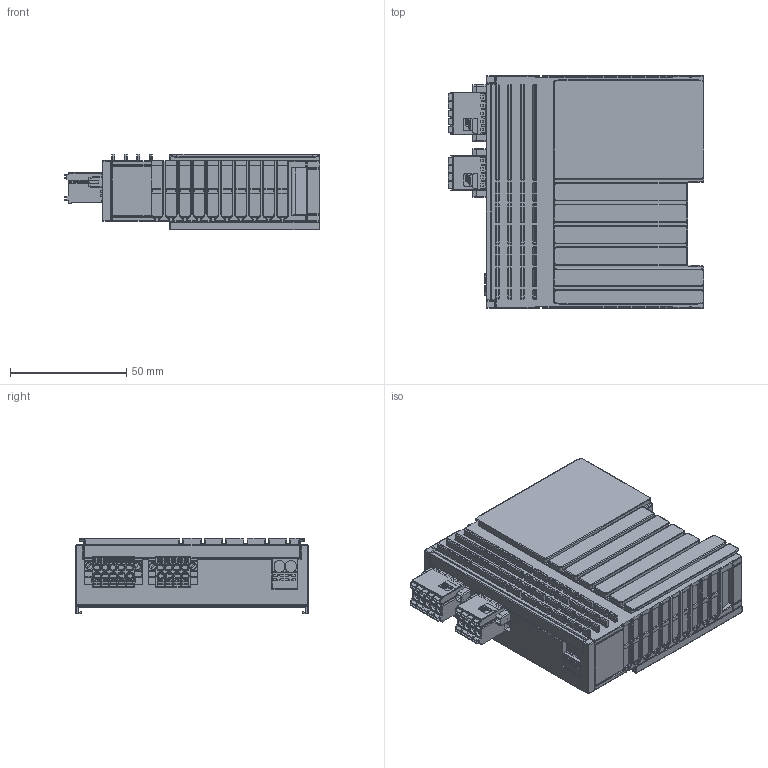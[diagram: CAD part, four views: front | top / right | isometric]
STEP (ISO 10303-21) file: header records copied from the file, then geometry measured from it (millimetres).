
FILE_DESCRIPTION(/* description */ ('EtherCAT-Klemme 30 mm 1 x 5pin 1 x 4 pin 1 x 2 pin'),/* implementation_level */ '2;1');
FILE_NAME(/* name */ 'E:\ethercat_terminal_30mm_1x5pin_1x4pin_1x2pin.stp',/* time_stamp */ '2021-05-19T11:24:11+02:00',/* author */ ('LarsSo'),/* organization */ (''),/* preprocessor_version */ 'ST-DEVELOPER v18',/* originating_system */ 'Autodesk Inventor 2020',/* authorisation */ '');
FILE_SCHEMA (('AUTOMOTIVE_DESIGN { 1 0 10303 214 3 1 1 }'));
Products named in the file (1): 0000003692_EtherCAT_terminal_30mm_1x5pin_1x4pin_1x2pin
Bounding box: 110 x 100 x 32.7 mm (x, y, z)
Volume: 263170.6 mm3; surface area: 43874.8 mm2
Topology: 1 solids, 27 shells, 6807 faces, 17767 edges, 11223 vertices
Faces by surface type: plane 3951, cylinder 1971, torus 407, sphere 316, bspline 150, cone 12
Full cylindrical faces by diameter (mm): 1.2 x18, 1.95 x8, 2.1 x4, 2.3 x8, 2.8 x4, 3 x18
Entity records: 217800 total; most frequent: CARTESIAN_POINT 43703, ORIENTED_EDGE 35534, DIRECTION 35523, EDGE_CURVE 17767, LINE 12721, VECTOR 12721, AXIS2_PLACEMENT_3D 11401, VERTEX_POINT 11223
